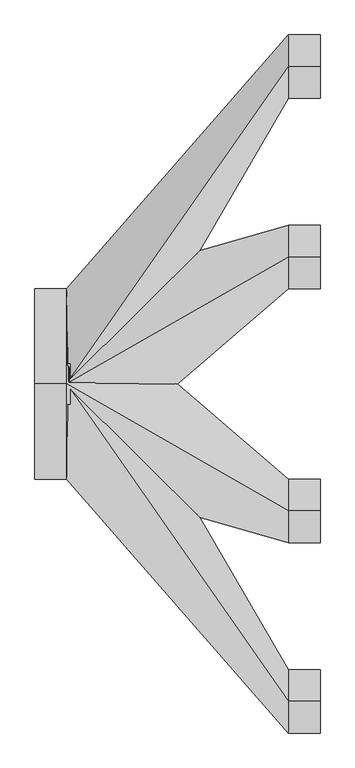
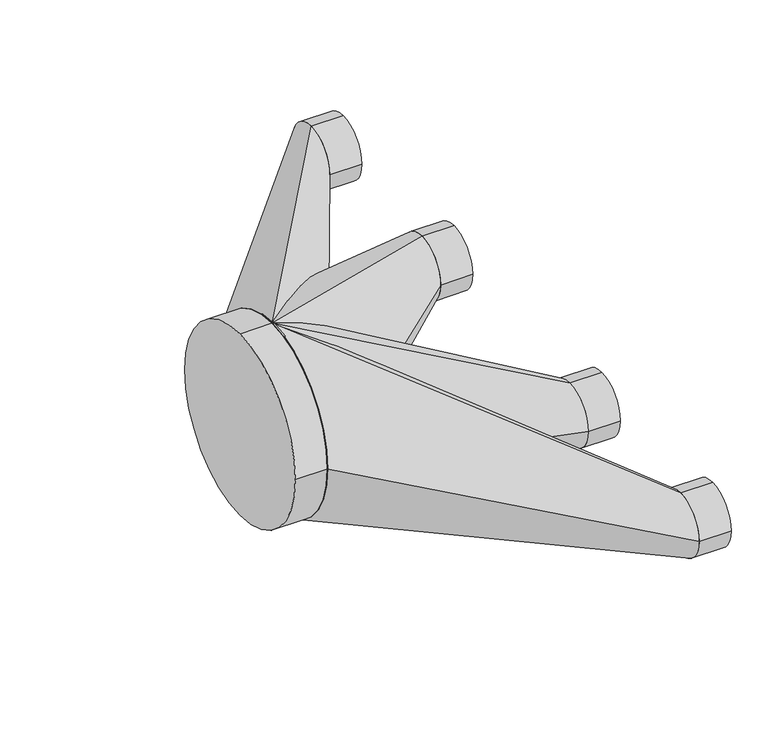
"""IFC4 building model written with IfcOpenShell, lengths in millimetres: duct fitting geometry, Prihoda Circular Pants 4 Outlets : Pants Circular 4 Outlets."""

import ifcopenshell
import ifcopenshell.guid

model = None  # the IFC model being written
_history = None  # IfcOwnerHistory: only IFC2X3 demands one
_inside = {}  # id of a spatial element -> (the spatial element, [elements in it])
_under = {}  # id of a project, library or spatial element -> (it, [spatial elements below it])
_declared = {}  # id of a project -> (the project, [libraries it declares])
_typed = {}  # id of a type object -> (the type object, [elements of that type])
_made_of = {}  # id of a material, layer set ... -> (it, [elements and type objects made of it])


def new_model(schema):
    """Start an empty IFC model of exactly this schema.

    Asked for "IFC4X3", IfcOpenShell would pick the latest addendum, in which some entities
    have other attributes; the version numbers below select the first issue.
    IFC2X3 requires an IfcOwnerHistory on every rooted entity: one is made here for all.
    """
    global model, _history
    if schema == "IFC4X3":
        model = ifcopenshell.file(schema_version=(4, 3, 0, 0))
    else:
        model = ifcopenshell.file(schema=schema)
    _inside.clear()
    _under.clear()
    _declared.clear()
    _typed.clear()
    _made_of.clear()
    _history = None
    if model.schema == "IFC2X3":
        org = make("IfcOrganization", Name="unknown")
        user = make(
            "IfcPersonAndOrganization",
            ThePerson=make("IfcPerson", FamilyName="unknown"),
            TheOrganization=org,
        )
        app = make(
            "IfcApplication",
            ApplicationDeveloper=org,
            Version="unknown",
            ApplicationFullName="unknown",
            ApplicationIdentifier="unknown",
        )
        _history = make(
            "IfcOwnerHistory",
            OwningUser=user,
            OwningApplication=app,
            ChangeAction="ADDED",
            CreationDate=0,
        )
    return model


def make(cls, **values):
    """One entity of the class cls with the attributes given. An attribute that is None is left unset."""
    return model.create_entity(
        cls, **{name: value for name, value in values.items() if value is not None}
    )


def rooted(cls, **values):
    """An entity with a GlobalId (a new one), such as an element, a storey or a relation."""
    return make(cls, GlobalId=ifcopenshell.guid.new(), OwnerHistory=_history, **values)


def si_unit(unit_type, name, prefix=None):
    """IfcSIUnit, for example si_unit("LENGTHUNIT", "METRE", prefix="MILLI")."""
    return make("IfcSIUnit", UnitType=unit_type, Prefix=prefix, Name=name)


def assignment(units):
    """IfcUnitAssignment: the units of a project."""
    return None if units is None else make("IfcUnitAssignment", Units=units)


def point(xyz):
    """IfcCartesianPoint."""
    return None if xyz is None else make("IfcCartesianPoint", Coordinates=xyz)


def direction(xyz):
    """IfcDirection."""
    return None if xyz is None else make("IfcDirection", DirectionRatios=xyz)


def frame(location, z_axis=None, x_axis=None):
    """IfcAxis2Placement3D, a coordinate frame: its origin and axes. An axis left out is left unset."""
    return make(
        "IfcAxis2Placement3D",
        Location=point(location),
        Axis=direction(z_axis),
        RefDirection=direction(x_axis),
    )


def frame_2d(location, x_axis=None):
    """IfcAxis2Placement2D, a coordinate frame in the plane: its origin and x axis."""
    return make(
        "IfcAxis2Placement2D", Location=point(location), RefDirection=direction(x_axis)
    )


def origin():
    """The frame at (0, 0, 0) with its axes left unset."""
    return frame((0.0, 0.0, 0.0))


def origin_2d():
    """The frame at (0, 0) in the plane with its x axis left unset."""
    return frame_2d((0.0, 0.0))


def place(relative_to, where):
    """IfcLocalPlacement: puts the frame where relative to a parent placement (None: the world)."""
    return make(
        "IfcLocalPlacement", PlacementRelTo=relative_to, RelativePlacement=where
    )


def context(
    kind, dimensions, precision=None, world=None, true_north=None, identifier=None
):
    """IfcGeometricRepresentationContext, for example the 3D "Model" context."""
    return make(
        "IfcGeometricRepresentationContext",
        ContextIdentifier=identifier,
        ContextType=kind,
        CoordinateSpaceDimension=dimensions,
        Precision=precision,
        WorldCoordinateSystem=world,
        TrueNorth=true_north,
    )


def project(units=None, contexts=None):
    """IfcProject with its units and contexts."""
    return rooted(
        "IfcProject",
        Name="project",
        RepresentationContexts=contexts,
        UnitsInContext=assignment(units),
    )


def spatial(cls, under=None, at=None, **own):
    """A site, building, storey or space (cls), placed at a placement, below another one or the project."""
    s = rooted(cls, ObjectPlacement=at, **own)
    if under is not None:
        _under.setdefault(under.id(), (under, []))[1].append(s)
    return s


def circle_curve(where, radius):
    """IfcCircle in the frame where."""
    return make("IfcCircle", Position=where, Radius=radius)


def trimmed(basis, trim1, trim2, sense, master):
    """IfcTrimmedCurve: the piece of a basis curve between two trims."""
    return make(
        "IfcTrimmedCurve",
        BasisCurve=basis,
        Trim1=trim1,
        Trim2=trim2,
        SenseAgreement=sense,
        MasterRepresentation=master,
    )


def segment(curve, same_sense, transition):
    """IfcCompositeCurveSegment."""
    return make(
        "IfcCompositeCurveSegment",
        Transition=transition,
        SameSense=same_sense,
        ParentCurve=curve,
    )


def composite_curve(segments, self_intersect=None):
    """IfcCompositeCurve: segments joined end to end."""
    return make("IfcCompositeCurve", Segments=segments, SelfIntersect=self_intersect)


def outline(outer, holes=None, kind="AREA"):
    """IfcArbitraryClosedProfileDef: a profile drawn as a closed curve; with holes, ...WithVoids."""
    if holes is None:
        return make("IfcArbitraryClosedProfileDef", ProfileType=kind, OuterCurve=outer)
    return make(
        "IfcArbitraryProfileDefWithVoids",
        ProfileType=kind,
        OuterCurve=outer,
        InnerCurves=holes,
    )


def extrude(swept, where, along, depth):
    """IfcExtrudedAreaSolid: the profile swept, set in the frame where, extruded along a direction by depth."""
    return make(
        "IfcExtrudedAreaSolid",
        SweptArea=swept,
        Position=where,
        ExtrudedDirection=direction(along),
        Depth=depth,
    )


def shape(context_of_items, identifier, shape_type, items):
    """IfcShapeRepresentation: the items that make up one representation, for example the "Body"."""
    return make(
        "IfcShapeRepresentation",
        ContextOfItems=context_of_items,
        RepresentationIdentifier=identifier,
        RepresentationType=shape_type,
        Items=items,
    )


def source(mapping_origin, context_of_items, identifier, shape_type, items):
    """IfcRepresentationMap: a shape defined once, which mapped items show again and again."""
    return make(
        "IfcRepresentationMap",
        MappingOrigin=mapping_origin,
        MappedRepresentation=shape(context_of_items, identifier, shape_type, items),
    )


def transform(
    local_origin,
    x_axis=None,
    y_axis=None,
    z_axis=None,
    scale=None,
    scale2=None,
    scale3=None,
    uniform=True,
):
    """IfcCartesianTransformationOperator3D, or its non-uniform kind. x_axis, y_axis, z_axis: its Axis1, 2, 3."""
    if uniform:
        return make(
            "IfcCartesianTransformationOperator3D",
            Axis1=direction(x_axis),
            Axis2=direction(y_axis),
            LocalOrigin=point(local_origin),
            Scale=scale,
            Axis3=direction(z_axis),
        )
    return make(
        "IfcCartesianTransformationOperator3DnonUniform",
        Axis1=direction(x_axis),
        Axis2=direction(y_axis),
        LocalOrigin=point(local_origin),
        Scale=scale,
        Axis3=direction(z_axis),
        Scale2=scale2,
        Scale3=scale3,
    )


def mapped(mapping_source, mapping_target):
    """IfcMappedItem: shows the shape of a source again, moved by a transform."""
    return make(
        "IfcMappedItem", MappingSource=mapping_source, MappingTarget=mapping_target
    )


def made_of(thing, what):
    """Note that an element or type object is made of a material, layer set ...; save() writes the relation."""
    if what is not None:
        _made_of.setdefault(what.id(), (what, []))[1].append(thing)
    return thing


def element(
    cls,
    number,
    at=None,
    inside=None,
    cuts=None,
    type_object=None,
    material=None,
    context=None,
    identifier="Body",
    shape_type=None,
    held_by="IfcProductDefinitionShape",
    body=None,
    shapes=None,
    **own,
):
    """One element of the class cls, such as IfcWall. Its Tag is "e" and its number.

    at: its placement. inside: the storey or other place that contains it. cuts: it is an
    opening in that element (IfcRelVoidsElement). A single representation is given by context,
    identifier, shape_type and body (its items); several are given by shapes. held_by: the class
    of the entity that holds the representations. save() writes the other relations.
    """
    e = rooted(cls, Tag="e%d" % number, ObjectPlacement=at, **own)
    if body is not None:
        shapes = [shape(context, identifier, shape_type, body)]
    if shapes is not None:
        e.Representation = make(held_by, Representations=shapes)
    if inside is not None:
        _inside.setdefault(inside.id(), (inside, []))[1].append(e)
    if cuts is not None:
        rooted(
            "IfcRelVoidsElement", RelatingBuildingElement=cuts, RelatedOpeningElement=e
        )
    if type_object is not None:
        _typed.setdefault(type_object.id(), (type_object, []))[1].append(e)
    return made_of(e, material)


def aggregate(whole, parts):
    """IfcRelAggregates: a whole, such as a stair, and the parts it consists of."""
    return rooted("IfcRelAggregates", RelatingObject=whole, RelatedObjects=parts)


def save(model, path):
    """Write the relations noted so far, then the file.

    IfcRelAggregates (storeys below a building ...), IfcRelContainedInSpatialStructure (elements
    in a storey), IfcRelDefinesByType, IfcRelAssociatesMaterial and IfcRelDeclares: one each for
    every whole, place, type object, material and project.
    """
    for whole, parts in _under.values():
        aggregate(whole, parts)
    for where, things in _inside.values():
        rooted(
            "IfcRelContainedInSpatialStructure",
            RelatedElements=things,
            RelatingStructure=where,
        )
    for kind, things in _typed.values():
        rooted("IfcRelDefinesByType", RelatedObjects=things, RelatingType=kind)
    for what, things in _made_of.values():
        rooted("IfcRelAssociatesMaterial", RelatedObjects=things, RelatingMaterial=what)
    for by, libraries in _declared.values():
        rooted("IfcRelDeclares", RelatingContext=by, RelatedDefinitions=libraries)
    model.write(path)


def plane_surface(at):
    """IfcPlane: the flat surface through the origin of the frame at, square to its z axis."""
    return make("IfcPlane", Position=at)


def spline_surface(u_degree, v_degree, points, u_multiplicities, v_multiplicities, u_knots, v_knots, weights=None):
    """IfcBSplineSurfaceWithKnots; with weights, IfcRationalBSplineSurfaceWithKnots. points: one row for each step in u."""
    own = dict(
        UDegree=u_degree,
        VDegree=v_degree,
        ControlPointsList=[[point(p) for p in row] for row in points],
        SurfaceForm="UNSPECIFIED",
        UClosed=False,
        VClosed=False,
        SelfIntersect=False,
        UMultiplicities=u_multiplicities,
        VMultiplicities=v_multiplicities,
        UKnots=u_knots,
        VKnots=v_knots,
        KnotSpec="UNSPECIFIED",
    )
    if weights is None:
        return make("IfcBSplineSurfaceWithKnots", **own)
    return make("IfcRationalBSplineSurfaceWithKnots", WeightsData=weights, **own)


def advanced_brep(points, edges, surfaces, faces):
    """IfcAdvancedBrep: a solid bounded by faces that lie on surfaces and meet in shared edges.

    An edge is (start, end): straight between two places in points (the first is 0);
    or (start, end, curve); or (start, end, curve, False) where it runs against its curve.
    A face is (place in surfaces, loops), or (place, loops, False) where it looks against
    its surface's normal. A loop lists edges by number (the first is 1), with a minus sign
    where the edge is run from its end to its start. The first loop is the outer one.
    """
    corners = [point(p) for p in points]
    vertices = [make("IfcVertexPoint", VertexGeometry=c) for c in corners]
    made = []
    for start, end, *more in edges:
        made.append(
            make(
                "IfcEdgeCurve",
                EdgeStart=vertices[start],
                EdgeEnd=vertices[end],
                EdgeGeometry=more[0] if more else make("IfcPolyline", Points=[corners[start], corners[end]]),
                SameSense=more[1] if len(more) > 1 else True,
            )
        )
    hull = []
    for where, loops, *sense in faces:
        bounds = []
        for j, loop in enumerate(loops):
            ring = [make("IfcOrientedEdge", EdgeElement=made[abs(k) - 1], Orientation=k > 0) for k in loop]
            bounds.append(
                make(
                    "IfcFaceOuterBound" if j == 0 else "IfcFaceBound",
                    Bound=make("IfcEdgeLoop", EdgeList=ring),
                    Orientation=True,
                )
            )
        hull.append(make("IfcAdvancedFace", Bounds=bounds, FaceSurface=surfaces[where], SameSense=sense[0] if sense else True))
    return make("IfcAdvancedBrep", Outer=make("IfcClosedShell", CfsFaces=hull))


def duct_fitting_66f306ce(model_context):
    return source(origin(), model_context, "Body", "SolidModel", [
        advanced_brep(
        [(350.0, -200.0, 50.0), (350.0, -250.0, 0.0), (350.0, -200.0, -50.0), (350.0, -150.0, 0.0), (0.0, 0.0, 150.0), (0.0, 150.0, 0.0), (0.0, 0.0, -150.0), (0.0, -150.0, 0.0)],
        [
            (0, 1, circle_curve(frame((350.0, -200.0, 0.0), z_axis=(1.0, 0.0, 0.0), x_axis=(0.0, 1.0, 0.0)), 50.0)),
            (1, 2, circle_curve(frame((350.0, -200.0, 0.0), z_axis=(1.0, 0.0, 0.0), x_axis=(0.0, 1.0, 0.0)), 50.0)),
            (2, 3, circle_curve(frame((350.0, -200.0, 0.0), z_axis=(1.0, 0.0, 0.0), x_axis=(0.0, 1.0, 0.0)), 50.0)),
            (3, 0, circle_curve(frame((350.0, -200.0, 0.0), z_axis=(1.0, 0.0, 0.0), x_axis=(0.0, 1.0, 0.0)), 50.0)),
            (4, 5, circle_curve(frame((0.0, 0.0, 0.0), z_axis=(-1.0, 0.0, 0.0), x_axis=(0.0, 1.0, 0.0)), 150.0)),
            (5, 6, circle_curve(frame((0.0, 0.0, 0.0), z_axis=(-1.0, 0.0, 0.0), x_axis=(0.0, 1.0, 0.0)), 150.0)),
            (6, 7, circle_curve(frame((0.0, 0.0, 0.0), z_axis=(-1.0, 0.0, 0.0), x_axis=(0.0, 1.0, 0.0)), 150.0)),
            (7, 4, circle_curve(frame((0.0, 0.0, 0.0), z_axis=(-1.0, 0.0, 0.0), x_axis=(0.0, 1.0, 0.0)), 150.0)),
            (7, 1),
            (0, 4),
            (6, 2),
            (5, 3),
        ],
        [
            plane_surface(frame((350.0, -200.0, 0.0), z_axis=(1.0, 0.0, 0.0), x_axis=(0.0, -1.0, 0.0))),
            plane_surface(frame((0.0, 0.0, 0.0), z_axis=(-1.0, 0.0, 0.0), x_axis=(0.0, -1.0, 0.0))),
            spline_surface(2, 1, [[(0.0, 0.0, 150.0), (350.0, -200.0, 50.0)], [(0.0, -150.0, 150.0), (350.0, -250.0, 50.0)], [(0.0, -150.0, 0.0), (350.0, -250.0, 0.0)]], [3, 3], [2, 2], [0.0, 1.0], [0.0, 1.0], weights=[[1.0, 1.0], [0.7071067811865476, 0.7071067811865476], [1.0, 1.0]]),
            spline_surface(2, 1, [[(0.0, -150.0, 0.0), (350.0, -250.0, 0.0)], [(0.0, -150.0, -150.0), (350.0, -250.0, -50.0)], [(0.0, 0.0, -150.0), (350.0, -200.0, -50.0)]], [3, 3], [2, 2], [0.0, 1.0], [0.0, 1.0], weights=[[1.0, 1.0], [0.7071067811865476, 0.7071067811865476], [1.0, 1.0]]),
            spline_surface(2, 1, [[(0.0, 0.0, -150.0), (350.0, -200.0, -50.0)], [(0.0, 150.0, -150.0), (350.0, -150.0, -50.0)], [(0.0, 150.0, 0.0), (350.0, -150.0, 0.0)]], [3, 3], [2, 2], [0.0, 1.0], [0.0, 1.0], weights=[[1.0, 1.0], [0.7071067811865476, 0.7071067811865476], [1.0, 1.0]]),
            spline_surface(2, 1, [[(0.0, 150.0, 0.0), (350.0, -150.0, 0.0)], [(0.0, 150.0, 150.0), (350.0, -150.0, 50.0)], [(0.0, 0.0, 150.0), (350.0, -200.0, 50.0)]], [3, 3], [2, 2], [0.0, 1.0], [0.0, 1.0], weights=[[1.0, 1.0], [0.7071067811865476, 0.7071067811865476], [1.0, 1.0]]),
        ],
        [
            (0, [[1, 2, 3, 4]]),
            (1, [[5, 6, 7, 8]]),
            (2, [[-8, 9, -1, 10]]),
            (3, [[-7, 11, -2, -9]]),
            (4, [[-6, 12, -3, -11]]),
            (5, [[-5, -10, -4, -12]]),
        ],
    ),
        advanced_brep(
        [(350.0, -500.0, 50.0), (350.0, -550.0, 0.0), (350.0, -500.0, -50.0), (350.0, -450.0, 0.0), (0.0, 0.0, 150.0), (0.0, 150.0, 0.0), (0.0, 0.0, -150.0), (0.0, -150.0, 0.0)],
        [
            (0, 1, circle_curve(frame((350.0, -500.0, 0.0), z_axis=(1.0, 0.0, 0.0), x_axis=(0.0, 1.0, 0.0)), 50.0)),
            (1, 2, circle_curve(frame((350.0, -500.0, 0.0), z_axis=(1.0, 0.0, 0.0), x_axis=(0.0, 1.0, 0.0)), 50.0)),
            (2, 3, circle_curve(frame((350.0, -500.0, 0.0), z_axis=(1.0, 0.0, 0.0), x_axis=(0.0, 1.0, 0.0)), 50.0)),
            (3, 0, circle_curve(frame((350.0, -500.0, 0.0), z_axis=(1.0, 0.0, 0.0), x_axis=(0.0, 1.0, 0.0)), 50.0)),
            (4, 5, circle_curve(frame((0.0, 0.0, 0.0), z_axis=(-1.0, 0.0, 0.0), x_axis=(0.0, 1.0, 0.0)), 150.0)),
            (5, 6, circle_curve(frame((0.0, 0.0, 0.0), z_axis=(-1.0, 0.0, 0.0), x_axis=(0.0, 1.0, 0.0)), 150.0)),
            (6, 7, circle_curve(frame((0.0, 0.0, 0.0), z_axis=(-1.0, 0.0, 0.0), x_axis=(0.0, 1.0, 0.0)), 150.0)),
            (7, 4, circle_curve(frame((0.0, 0.0, 0.0), z_axis=(-1.0, 0.0, 0.0), x_axis=(0.0, 1.0, 0.0)), 150.0)),
            (7, 1),
            (0, 4),
            (6, 2),
            (5, 3),
        ],
        [
            plane_surface(frame((350.0, -500.0, 0.0), z_axis=(1.0, 0.0, 0.0), x_axis=(0.0, -1.0, 0.0))),
            plane_surface(frame((0.0, 0.0, 0.0), z_axis=(-1.0, 0.0, 0.0), x_axis=(0.0, -1.0, 0.0))),
            spline_surface(2, 1, [[(0.0, 0.0, 150.0), (350.0, -500.0, 50.0)], [(0.0, -150.0, 150.0), (350.0, -550.0, 50.0)], [(0.0, -150.0, 0.0), (350.0, -550.0, 0.0)]], [3, 3], [2, 2], [0.0, 1.0], [0.0, 1.0], weights=[[1.0, 1.0], [0.7071067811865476, 0.7071067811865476], [1.0, 1.0]]),
            spline_surface(2, 1, [[(0.0, -150.0, 0.0), (350.0, -550.0, 0.0)], [(0.0, -150.0, -150.0), (350.0, -550.0, -50.0)], [(0.0, 0.0, -150.0), (350.0, -500.0, -50.0)]], [3, 3], [2, 2], [0.0, 1.0], [0.0, 1.0], weights=[[1.0, 1.0], [0.7071067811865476, 0.7071067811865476], [1.0, 1.0]]),
            spline_surface(2, 1, [[(0.0, 0.0, -150.0), (350.0, -500.0, -50.0)], [(0.0, 150.0, -150.0), (350.0, -450.0, -50.0)], [(0.0, 150.0, 0.0), (350.0, -450.0, 0.0)]], [3, 3], [2, 2], [0.0, 1.0], [0.0, 1.0], weights=[[1.0, 1.0], [0.7071067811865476, 0.7071067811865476], [1.0, 1.0]]),
            spline_surface(2, 1, [[(0.0, 150.0, 0.0), (350.0, -450.0, 0.0)], [(0.0, 150.0, 150.0), (350.0, -450.0, 50.0)], [(0.0, 0.0, 150.0), (350.0, -500.0, 50.0)]], [3, 3], [2, 2], [0.0, 1.0], [0.0, 1.0], weights=[[1.0, 1.0], [0.7071067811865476, 0.7071067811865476], [1.0, 1.0]]),
        ],
        [
            (0, [[1, 2, 3, 4]]),
            (1, [[5, 6, 7, 8]]),
            (2, [[-8, 9, -1, 10]]),
            (3, [[-7, 11, -2, -9]]),
            (4, [[-6, 12, -3, -11]]),
            (5, [[-5, -10, -4, -12]]),
        ],
    ),
        advanced_brep(
        [(350.0, 200.0, 50.0), (350.0, 150.0, 0.0), (350.0, 200.0, -50.0), (350.0, 250.0, 0.0), (0.0, 0.0, 150.0), (0.0, 150.0, 0.0), (0.0, 0.0, -150.0), (0.0, -150.0, 0.0)],
        [
            (0, 1, circle_curve(frame((350.0, 200.0, 0.0), z_axis=(1.0, 0.0, 0.0), x_axis=(0.0, 1.0, 0.0)), 50.0)),
            (1, 2, circle_curve(frame((350.0, 200.0, 0.0), z_axis=(1.0, 0.0, 0.0), x_axis=(0.0, 1.0, 0.0)), 50.0)),
            (2, 3, circle_curve(frame((350.0, 200.0, 0.0), z_axis=(1.0, 0.0, 0.0), x_axis=(0.0, 1.0, 0.0)), 50.0)),
            (3, 0, circle_curve(frame((350.0, 200.0, 0.0), z_axis=(1.0, 0.0, 0.0), x_axis=(0.0, 1.0, 0.0)), 50.0)),
            (4, 5, circle_curve(frame((0.0, 0.0, 0.0), z_axis=(-1.0, 0.0, 0.0), x_axis=(0.0, 1.0, 0.0)), 150.0)),
            (5, 6, circle_curve(frame((0.0, 0.0, 0.0), z_axis=(-1.0, 0.0, 0.0), x_axis=(0.0, 1.0, 0.0)), 150.0)),
            (6, 7, circle_curve(frame((0.0, 0.0, 0.0), z_axis=(-1.0, 0.0, 0.0), x_axis=(0.0, 1.0, 0.0)), 150.0)),
            (7, 4, circle_curve(frame((0.0, 0.0, 0.0), z_axis=(-1.0, 0.0, 0.0), x_axis=(0.0, 1.0, 0.0)), 150.0)),
            (7, 1),
            (0, 4),
            (6, 2),
            (5, 3),
        ],
        [
            plane_surface(frame((350.0, 200.0, 0.0), z_axis=(1.0, 0.0, 0.0), x_axis=(0.0, -1.0, 0.0))),
            plane_surface(frame((0.0, 0.0, 0.0), z_axis=(-1.0, 0.0, 0.0), x_axis=(0.0, -1.0, 0.0))),
            spline_surface(2, 1, [[(0.0, 0.0, 150.0), (350.0, 200.0, 50.0)], [(0.0, -150.0, 150.0), (350.0, 150.0, 50.0)], [(0.0, -150.0, 0.0), (350.0, 150.0, 0.0)]], [3, 3], [2, 2], [0.0, 1.0], [0.0, 1.0], weights=[[1.0, 1.0], [0.7071067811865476, 0.7071067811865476], [1.0, 1.0]]),
            spline_surface(2, 1, [[(0.0, -150.0, 0.0), (350.0, 150.0, 0.0)], [(0.0, -150.0, -150.0), (350.0, 150.0, -50.0)], [(0.0, 0.0, -150.0), (350.0, 200.0, -50.0)]], [3, 3], [2, 2], [0.0, 1.0], [0.0, 1.0], weights=[[1.0, 1.0], [0.7071067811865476, 0.7071067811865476], [1.0, 1.0]]),
            spline_surface(2, 1, [[(0.0, 0.0, -150.0), (350.0, 200.0, -50.0)], [(0.0, 150.0, -150.0), (350.0, 250.0, -50.0)], [(0.0, 150.0, 0.0), (350.0, 250.0, 0.0)]], [3, 3], [2, 2], [0.0, 1.0], [0.0, 1.0], weights=[[1.0, 1.0], [0.7071067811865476, 0.7071067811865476], [1.0, 1.0]]),
            spline_surface(2, 1, [[(0.0, 150.0, 0.0), (350.0, 250.0, 0.0)], [(0.0, 150.0, 150.0), (350.0, 250.0, 50.0)], [(0.0, 0.0, 150.0), (350.0, 200.0, 50.0)]], [3, 3], [2, 2], [0.0, 1.0], [0.0, 1.0], weights=[[1.0, 1.0], [0.7071067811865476, 0.7071067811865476], [1.0, 1.0]]),
        ],
        [
            (0, [[1, 2, 3, 4]]),
            (1, [[5, 6, 7, 8]]),
            (2, [[-8, 9, -1, 10]]),
            (3, [[-7, 11, -2, -9]]),
            (4, [[-6, 12, -3, -11]]),
            (5, [[-5, -10, -4, -12]]),
        ],
    ),
        advanced_brep(
        [(350.0, 500.0, 50.0), (350.0, 450.0, 0.0), (350.0, 500.0, -50.0), (350.0, 550.0, 0.0), (0.0, 0.0, 150.0), (0.0, 150.0, 0.0), (0.0, 0.0, -150.0), (0.0, -150.0, 0.0)],
        [
            (0, 1, circle_curve(frame((350.0, 500.0, 0.0), z_axis=(1.0, 0.0, 0.0), x_axis=(0.0, 1.0, 0.0)), 50.0)),
            (1, 2, circle_curve(frame((350.0, 500.0, 0.0), z_axis=(1.0, 0.0, 0.0), x_axis=(0.0, 1.0, 0.0)), 50.0)),
            (2, 3, circle_curve(frame((350.0, 500.0, 0.0), z_axis=(1.0, 0.0, 0.0), x_axis=(0.0, 1.0, 0.0)), 50.0)),
            (3, 0, circle_curve(frame((350.0, 500.0, 0.0), z_axis=(1.0, 0.0, 0.0), x_axis=(0.0, 1.0, 0.0)), 50.0)),
            (4, 5, circle_curve(frame((0.0, 0.0, 0.0), z_axis=(-1.0, 0.0, 0.0), x_axis=(0.0, 1.0, 0.0)), 150.0)),
            (5, 6, circle_curve(frame((0.0, 0.0, 0.0), z_axis=(-1.0, 0.0, 0.0), x_axis=(0.0, 1.0, 0.0)), 150.0)),
            (6, 7, circle_curve(frame((0.0, 0.0, 0.0), z_axis=(-1.0, 0.0, 0.0), x_axis=(0.0, 1.0, 0.0)), 150.0)),
            (7, 4, circle_curve(frame((0.0, 0.0, 0.0), z_axis=(-1.0, 0.0, 0.0), x_axis=(0.0, 1.0, 0.0)), 150.0)),
            (7, 1),
            (0, 4),
            (6, 2),
            (5, 3),
        ],
        [
            plane_surface(frame((350.0, 500.0, 0.0), z_axis=(1.0, 0.0, 0.0), x_axis=(0.0, -1.0, 0.0))),
            plane_surface(frame((0.0, 0.0, 0.0), z_axis=(-1.0, 0.0, 0.0), x_axis=(0.0, -1.0, 0.0))),
            spline_surface(2, 1, [[(0.0, 0.0, 150.0), (350.0, 500.0, 50.0)], [(0.0, -150.0, 150.0), (350.0, 450.0, 50.0)], [(0.0, -150.0, 0.0), (350.0, 450.0, 0.0)]], [3, 3], [2, 2], [0.0, 1.0], [0.0, 1.0], weights=[[1.0, 1.0], [0.7071067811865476, 0.7071067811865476], [1.0, 1.0]]),
            spline_surface(2, 1, [[(0.0, -150.0, 0.0), (350.0, 450.0, 0.0)], [(0.0, -150.0, -150.0), (350.0, 450.0, -50.0)], [(0.0, 0.0, -150.0), (350.0, 500.0, -50.0)]], [3, 3], [2, 2], [0.0, 1.0], [0.0, 1.0], weights=[[1.0, 1.0], [0.7071067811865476, 0.7071067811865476], [1.0, 1.0]]),
            spline_surface(2, 1, [[(0.0, 0.0, -150.0), (350.0, 500.0, -50.0)], [(0.0, 150.0, -150.0), (350.0, 550.0, -50.0)], [(0.0, 150.0, 0.0), (350.0, 550.0, 0.0)]], [3, 3], [2, 2], [0.0, 1.0], [0.0, 1.0], weights=[[1.0, 1.0], [0.7071067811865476, 0.7071067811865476], [1.0, 1.0]]),
            spline_surface(2, 1, [[(0.0, 150.0, 0.0), (350.0, 550.0, 0.0)], [(0.0, 150.0, 150.0), (350.0, 550.0, 50.0)], [(0.0, 0.0, 150.0), (350.0, 500.0, 50.0)]], [3, 3], [2, 2], [0.0, 1.0], [0.0, 1.0], weights=[[1.0, 1.0], [0.7071067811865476, 0.7071067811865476], [1.0, 1.0]]),
        ],
        [
            (0, [[1, 2, 3, 4]]),
            (1, [[5, 6, 7, 8]]),
            (2, [[-8, 9, -1, 10]]),
            (3, [[-7, 11, -2, -9]]),
            (4, [[-6, 12, -3, -11]]),
            (5, [[-5, -10, -4, -12]]),
        ],
    ),
        extrude(outline(composite_curve([segment(trimmed(circle_curve(frame_2d((-500.0, 0.0)), 50.0), [point((-500.0, 50.0))], [point((-450.0, 0.0))], False, "CARTESIAN"), True, "CONTINUOUS"), segment(trimmed(circle_curve(frame_2d((-500.0, 0.0)), 50.0), [point((-450.0, 0.0))], [point((-500.0, -50.0))], False, "CARTESIAN"), True, "CONTINUOUS"), segment(trimmed(circle_curve(frame_2d((-500.0, 0.0)), 50.0), [point((-500.0, -50.0))], [point((-550.0, 0.0))], False, "CARTESIAN"), True, "CONTINUOUS"), segment(trimmed(circle_curve(frame_2d((-500.0, 0.0)), 50.0), [point((-550.0, 0.0))], [point((-500.0, 50.0))], False, "CARTESIAN"), True, "CONTINUOUS")], self_intersect=False)), frame((350.0, 0.0, 0.0), z_axis=(1.0, 0.0, 0.0), x_axis=(0.0, 1.0, 0.0)), (0.0, 0.0, 1.0), 50.0),
        extrude(outline(composite_curve([segment(trimmed(circle_curve(frame_2d((-200.0, 0.0)), 50.0), [point((-200.0, 50.0))], [point((-150.0, 0.0))], False, "CARTESIAN"), True, "CONTINUOUS"), segment(trimmed(circle_curve(frame_2d((-200.0, 0.0)), 50.0), [point((-150.0, 0.0))], [point((-200.0, -50.0))], False, "CARTESIAN"), True, "CONTINUOUS"), segment(trimmed(circle_curve(frame_2d((-200.0, 0.0)), 50.0), [point((-200.0, -50.0))], [point((-250.0, 0.0))], False, "CARTESIAN"), True, "CONTINUOUS"), segment(trimmed(circle_curve(frame_2d((-200.0, 0.0)), 50.0), [point((-250.0, 0.0))], [point((-200.0, 50.0))], False, "CARTESIAN"), True, "CONTINUOUS")], self_intersect=False)), frame((350.0, 0.0, 0.0), z_axis=(1.0, 0.0, 0.0), x_axis=(0.0, 1.0, 0.0)), (0.0, 0.0, 1.0), 50.0),
        extrude(outline(composite_curve([segment(trimmed(circle_curve(frame_2d((200.0, 0.0)), 50.0), [point((200.0, 50.0))], [point((250.0, 0.0))], False, "CARTESIAN"), True, "CONTINUOUS"), segment(trimmed(circle_curve(frame_2d((200.0, 0.0)), 50.0), [point((250.0, 0.0))], [point((200.0, -50.0))], False, "CARTESIAN"), True, "CONTINUOUS"), segment(trimmed(circle_curve(frame_2d((200.0, 0.0)), 50.0), [point((200.0, -50.0))], [point((150.0, 0.0))], False, "CARTESIAN"), True, "CONTINUOUS"), segment(trimmed(circle_curve(frame_2d((200.0, 0.0)), 50.0), [point((150.0, 0.0))], [point((200.0, 50.0))], False, "CARTESIAN"), True, "CONTINUOUS")], self_intersect=False)), frame((350.0, 0.0, 0.0), z_axis=(1.0, 0.0, 0.0), x_axis=(0.0, 1.0, 0.0)), (0.0, 0.0, 1.0), 50.0),
        extrude(outline(composite_curve([segment(trimmed(circle_curve(frame_2d((500.0, 0.0)), 50.0), [point((500.0, 50.0))], [point((550.0, 0.0))], False, "CARTESIAN"), True, "CONTINUOUS"), segment(trimmed(circle_curve(frame_2d((500.0, 0.0)), 50.0), [point((550.0, 0.0))], [point((500.0, -50.0))], False, "CARTESIAN"), True, "CONTINUOUS"), segment(trimmed(circle_curve(frame_2d((500.0, 0.0)), 50.0), [point((500.0, -50.0))], [point((450.0, 0.0))], False, "CARTESIAN"), True, "CONTINUOUS"), segment(trimmed(circle_curve(frame_2d((500.0, 0.0)), 50.0), [point((450.0, 0.0))], [point((500.0, 50.0))], False, "CARTESIAN"), True, "CONTINUOUS")], self_intersect=False)), frame((350.0, 0.0, 0.0), z_axis=(1.0, 0.0, 0.0), x_axis=(0.0, 1.0, 0.0)), (0.0, 0.0, 1.0), 50.0),
        extrude(outline(composite_curve([segment(trimmed(circle_curve(origin_2d(), 150.0), [point((0.0, 150.0))], [point((150.0, 0.0))], False, "CARTESIAN"), True, "CONTINUOUS"), segment(trimmed(circle_curve(origin_2d(), 150.0), [point((150.0, 0.0))], [point((0.0, -150.0))], False, "CARTESIAN"), True, "CONTINUOUS"), segment(trimmed(circle_curve(origin_2d(), 150.0), [point((0.0, -150.0))], [point((-150.0, 0.0))], False, "CARTESIAN"), True, "CONTINUOUS"), segment(trimmed(circle_curve(origin_2d(), 150.0), [point((-150.0, 0.0))], [point((0.0, 150.0))], False, "CARTESIAN"), True, "CONTINUOUS")], self_intersect=False)), frame((-50.0, 0.0, 0.0), z_axis=(1.0, 0.0, 0.0), x_axis=(0.0, 1.0, 0.0)), (0.0, 0.0, 1.0), 50.0),
    ])


if __name__ == "__main__":
    model = new_model("IFC4")
    model_context = context("Model", 3, world=origin())
    ifc_project = project(units=[si_unit("LENGTHUNIT", "METRE", prefix="MILLI")], contexts=[model_context])
    site = spatial("IfcSite", under=ifc_project)
    building = spatial("IfcBuilding", under=site)
    placement = place(None, origin())
    duct_fitting_shape = duct_fitting_66f306ce(model_context)
    element("IfcDuctFitting", 1, ObjectType="Prihoda Circular Pants 4 Outlets : Pants Circular 4 Outlets", at=placement, inside=building, context=model_context, shape_type="MappedRepresentation", body=[
        mapped(duct_fitting_shape, transform((0.0, 0.0, 0.0), x_axis=(1.0, 0.0, 0.0), y_axis=(0.0, 1.0, 0.0), z_axis=(0.0, 0.0, 1.0))),
    ])
    save(model, "model.ifc")
